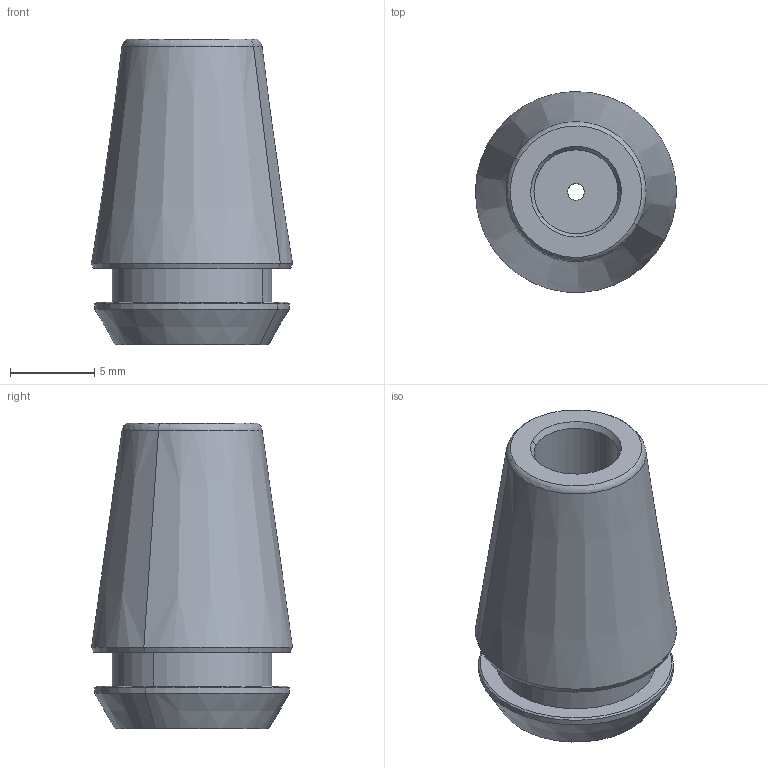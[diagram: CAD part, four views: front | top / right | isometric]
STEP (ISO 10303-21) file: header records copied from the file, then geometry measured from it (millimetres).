
FILE_DESCRIPTION(('CATIA V5 STEP','CAx-IF Rec.Pracs.--- Model Styling and Organization---1.2---2011-12-15'),'2;1');
FILE_NAME('\\nas01\drv1\utils\eitdev\rte\eit\transmagicconvert\db\out\635846481395554474\4511356 -D-M.stp','2015-12-02T08:15:52+00:00',('none'),('none'),'CATIA Version 5 Release 21 SP 5 (IN-10)','CATIA V5 STEP AP214','none');
FILE_SCHEMA(('AUTOMOTIVE_DESIGN { 1 0 10303 214 1 1 1 1 }'));
Length unit declared in the file: millimetre
Products named in the file (1): ER11 SPR 0.5- 1 AA
Bounding box: 11.96 x 11.96 x 18.2 mm (x, y, z)
Volume: 1332.9 mm3; surface area: 921.3 mm2
Topology: 1 solids, 1 shells, 28 faces, 61 edges, 38 vertices
Faces by surface type: cone 13, cylinder 8, plane 5, torus 2
Entity records: 843 total; most frequent: CARTESIAN_POINT 187, ORIENTED_EDGE 122, DIRECTION 112, AXIS2_PLACEMENT_3D 65, EDGE_CURVE 61, VERTEX_POINT 38, CIRCLE 36, EDGE_LOOP 33
